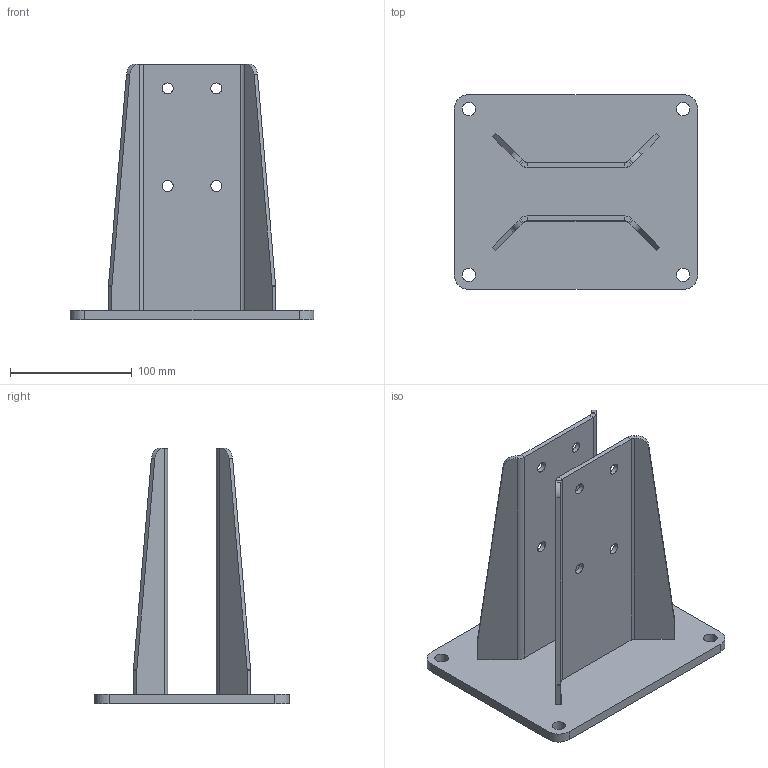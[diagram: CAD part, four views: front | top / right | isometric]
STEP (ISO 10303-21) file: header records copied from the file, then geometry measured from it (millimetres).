
FILE_DESCRIPTION(/* description */ ('FOOT FOR PROFILE 100-1020'),/* implementation_level */ '2;1');
FILE_NAME(/* name */ '\\carryline.intra\privat\users\mathias\Desktop\Tillfälliga filer\100-1151.stp',/* time_stamp */ '2018-11-19T08:59:40+01:00',/* author */ ('PL'),/* organization */ ('CARRYLINE'),/* preprocessor_version */ 'ST-DEVELOPER v17',/* originating_system */ 'Autodesk Inventor 2018',/* authorisation */ '');
FILE_SCHEMA (('AUTOMOTIVE_DESIGN { 1 0 10303 214 3 1 1 }'));
Length unit declared in the file: millimetre
Products named in the file (3): 100-1151; 16826; 16683_1
Assembly tree (3 placements, depth 2):
  100-1151
    16683_1  x2
    16826
Bounding box: 200 x 160 x 210 mm (x, y, z)
Volume: 466391.8 mm3; surface area: 187081.5 mm2
Topology: 3 solids, 3 shells, 134 faces, 364 edges, 236 vertices
Faces by surface type: plane 102, cylinder 32
Full cylindrical faces by diameter (mm): 9 x8, 11 x4
Entity records: 3033 total; most frequent: CARTESIAN_POINT 510, ORIENTED_EDGE 500, DIRECTION 490, EDGE_CURVE 250, LINE 202, VECTOR 202, VERTEX_POINT 164, AXIS2_PLACEMENT_3D 144
